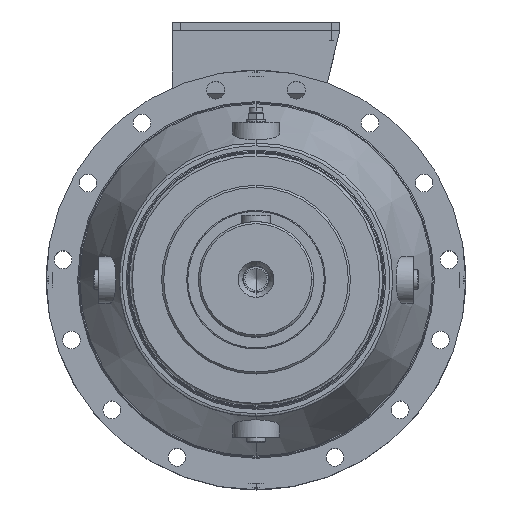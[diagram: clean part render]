
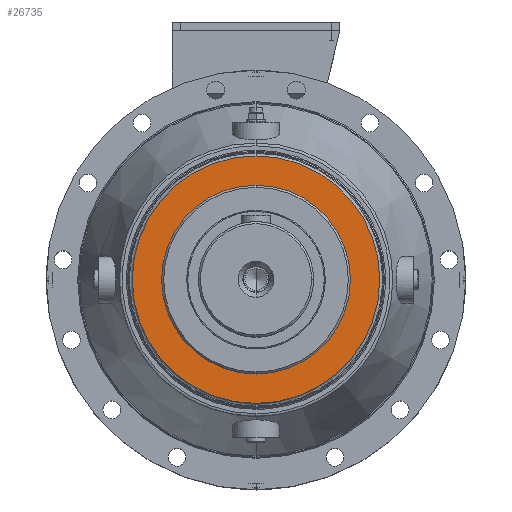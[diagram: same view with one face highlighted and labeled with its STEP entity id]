
A CAD part, top view. The second image highlights one B-rep face of the part: STEP entity #26735.
In plain terms, the highlighted planar face has unit normal (0, 0, 1).
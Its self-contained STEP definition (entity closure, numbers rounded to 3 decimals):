
#1968 = VERTEX_POINT ( 'NONE', #10679 ) ;
#2002 = VERTEX_POINT ( 'NONE', #10071 ) ;
#2019 = VERTEX_POINT ( 'NONE', #10033 ) ;
#2041 = VERTEX_POINT ( 'NONE', #10123 ) ;
#8716 = AXIS2_PLACEMENT_3D ( 'NONE', #76000, #75952, #75906 ) ;
#10033 = CARTESIAN_POINT ( 'NONE',  ( 0., -118., 175. ) ) ;
#10071 = CARTESIAN_POINT ( 'NONE',  ( 0., 90., 175. ) ) ;
#10123 = CARTESIAN_POINT ( 'NONE',  ( 0., -90., 175. ) ) ;
#10679 = CARTESIAN_POINT ( 'NONE',  ( 0., 118., 175. ) ) ;
#26735 = ADVANCED_FACE ( 'NONE', ( #74960, #74970 ), #75908, .F. ) ;
#30720 = AXIS2_PLACEMENT_3D ( 'NONE', #95828, #95780, #95776 ) ;
#30771 = AXIS2_PLACEMENT_3D ( 'NONE', #95642, #95694, #95680 ) ;
#30778 = AXIS2_PLACEMENT_3D ( 'NONE', #95952, #95961, #95881 ) ;
#30779 = AXIS2_PLACEMENT_3D ( 'NONE', #95890, #95883, #95986 ) ;
#35774 = EDGE_LOOP ( 'NONE', ( #55994, #55982 ) ) ;
#35783 = EDGE_LOOP ( 'NONE', ( #53304, #55993 ) ) ;
#53304 = ORIENTED_EDGE ( 'NONE', *, *, #134161, .F. ) ;
#55982 = ORIENTED_EDGE ( 'NONE', *, *, #134159, .F. ) ;
#55993 = ORIENTED_EDGE ( 'NONE', *, *, #134124, .F. ) ;
#55994 = ORIENTED_EDGE ( 'NONE', *, *, #134098, .F. ) ;
#74960 = FACE_BOUND ( 'NONE', #35783, .T. ) ;
#74970 = FACE_OUTER_BOUND ( 'NONE', #35774, .T. ) ;
#75906 = DIRECTION ( 'NONE',  ( 0., 1., 0. ) ) ;
#75908 = PLANE ( 'NONE',  #8716 ) ;
#75952 = DIRECTION ( 'NONE',  ( 0., 0., -1. ) ) ;
#76000 = CARTESIAN_POINT ( 'NONE',  ( 0., 118., 175. ) ) ;
#95642 = CARTESIAN_POINT ( 'NONE',  ( 0., 0., 175. ) ) ;
#95680 = DIRECTION ( 'NONE',  ( 0., 1., 0. ) ) ;
#95694 = DIRECTION ( 'NONE',  ( 0., 0., -1. ) ) ;
#95776 = DIRECTION ( 'NONE',  ( 0., 1., 0. ) ) ;
#95780 = DIRECTION ( 'NONE',  ( 0., 0., 1. ) ) ;
#95828 = CARTESIAN_POINT ( 'NONE',  ( 0., 0., 175. ) ) ;
#95881 = DIRECTION ( 'NONE',  ( 0., 1., 0. ) ) ;
#95883 = DIRECTION ( 'NONE',  ( 0., 0., 1. ) ) ;
#95890 = CARTESIAN_POINT ( 'NONE',  ( 0., 0., 175. ) ) ;
#95952 = CARTESIAN_POINT ( 'NONE',  ( 0., 0., 175. ) ) ;
#95961 = DIRECTION ( 'NONE',  ( 0., 0., -1. ) ) ;
#95986 = DIRECTION ( 'NONE',  ( 0., 1., 0. ) ) ;
#128684 = CIRCLE ( 'NONE', #30771, 118. ) ;
#128712 = CIRCLE ( 'NONE', #30778, 118. ) ;
#128722 = CIRCLE ( 'NONE', #30720, 90. ) ;
#128731 = CIRCLE ( 'NONE', #30779, 90. ) ;
#134098 = EDGE_CURVE ( 'NONE', #2019, #1968, #128684, .T. ) ;
#134124 = EDGE_CURVE ( 'NONE', #2041, #2002, #128722, .T. ) ;
#134159 = EDGE_CURVE ( 'NONE', #1968, #2019, #128712, .T. ) ;
#134161 = EDGE_CURVE ( 'NONE', #2002, #2041, #128731, .T. ) ;
